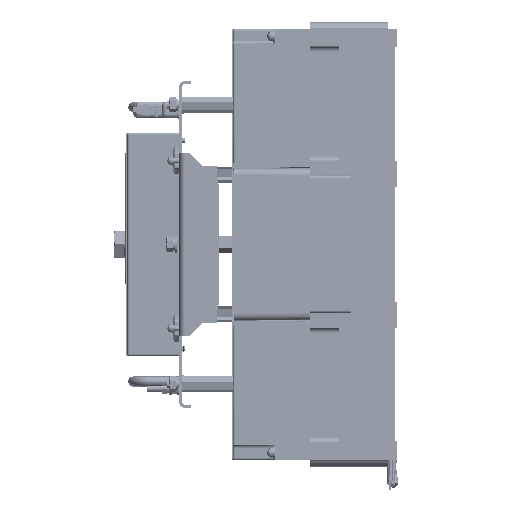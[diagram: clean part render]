
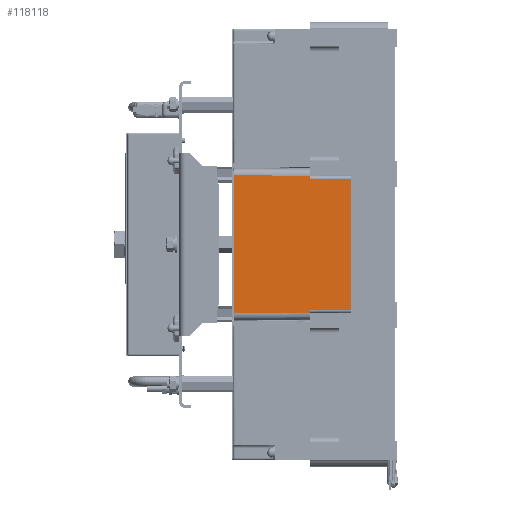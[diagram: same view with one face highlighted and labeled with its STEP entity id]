
A CAD part, left-side view. The second image highlights one B-rep face of the part: STEP entity #118118.
In plain terms, the highlighted planar face has unit normal (-1, -0.006, 0).
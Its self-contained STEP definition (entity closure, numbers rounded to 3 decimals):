
#57823 = CARTESIAN_POINT ( 'NONE',  ( -287.204, -14.459, -9.732 ) ) ;
#57861 = DIRECTION ( 'NONE',  ( 0., 0., -1. ) ) ;
#57862 = VECTOR ( 'NONE', #57861, 1000. ) ;
#57865 = CARTESIAN_POINT ( 'NONE',  ( -287.204, -14.459, 133. ) ) ;
#57866 = LINE ( 'NONE', #57865, #57862 ) ;
#57925 = CARTESIAN_POINT ( 'NONE',  ( -287.633, 60.041, 133. ) ) ;
#57926 = AXIS2_PLACEMENT_3D ( 'NONE', #57925, #58017, #58016 ) ;
#57932 = PLANE ( 'NONE',  #57926 ) ;
#57933 = FACE_OUTER_BOUND ( 'NONE', #118364, .T. ) ;
#58016 = DIRECTION ( 'NONE',  ( -0.006, 1., 0. ) ) ;
#58017 = DIRECTION ( 'NONE',  ( -1., -0.006, 0. ) ) ;
#58039 = CARTESIAN_POINT ( 'NONE',  ( -287.633, 60.041, 126. ) ) ;
#58061 = DIRECTION ( 'NONE',  ( 0., 0., 1. ) ) ;
#58062 = VECTOR ( 'NONE', #58061, 1000. ) ;
#58063 = CARTESIAN_POINT ( 'NONE',  ( -287.633, 60.041, 133. ) ) ;
#58064 = LINE ( 'NONE', #58063, #58062 ) ;
#58117 = DIRECTION ( 'NONE',  ( 0.006, -1., 0.004 ) ) ;
#58118 = VECTOR ( 'NONE', #58117, 1000. ) ;
#58120 = CARTESIAN_POINT ( 'NONE',  ( -287.63, 59.527, -9.998 ) ) ;
#58121 = LINE ( 'NONE', #58120, #58118 ) ;
#58151 = CARTESIAN_POINT ( 'NONE',  ( -286.967, -55.459, 122.7 ) ) ;
#58257 = CARTESIAN_POINT ( 'NONE',  ( -287.204, -14.459, 125.732 ) ) ;
#58269 = CARTESIAN_POINT ( 'NONE',  ( -287.633, 60.041, -10. ) ) ;
#58322 = DIRECTION ( 'NONE',  ( 0., 0., -1. ) ) ;
#58323 = VECTOR ( 'NONE', #58322, 1000. ) ;
#58324 = CARTESIAN_POINT ( 'NONE',  ( -287.204, -14.459, 133. ) ) ;
#58325 = LINE ( 'NONE', #58324, #58323 ) ;
#58401 = CARTESIAN_POINT ( 'NONE',  ( -286.967, -55.459, -6.7 ) ) ;
#58403 = DIRECTION ( 'NONE',  ( 0., 0., 1. ) ) ;
#58405 = VECTOR ( 'NONE', #58403, 1000. ) ;
#58407 = CARTESIAN_POINT ( 'NONE',  ( -286.967, -55.459, 133. ) ) ;
#58408 = LINE ( 'NONE', #58407, #58405 ) ;
#58419 = CARTESIAN_POINT ( 'NONE',  ( -287.204, -14.459, 122.7 ) ) ;
#58421 = DIRECTION ( 'NONE',  ( -0.006, 1., 0. ) ) ;
#58422 = VECTOR ( 'NONE', #58421, 1000. ) ;
#58424 = CARTESIAN_POINT ( 'NONE',  ( -287.204, -14.459, 122.7 ) ) ;
#58425 = LINE ( 'NONE', #58424, #58422 ) ;
#58529 = DIRECTION ( 'NONE',  ( 0.006, -1., 0. ) ) ;
#58530 = VECTOR ( 'NONE', #58529, 1000. ) ;
#58532 = CARTESIAN_POINT ( 'NONE',  ( -286.967, -55.459, -6.7 ) ) ;
#58541 = LINE ( 'NONE', #58532, #58530 ) ;
#58727 = CARTESIAN_POINT ( 'NONE',  ( -287.204, -14.459, -6.7 ) ) ;
#58763 = DIRECTION ( 'NONE',  ( -0.006, 1., 0.004 ) ) ;
#58765 = VECTOR ( 'NONE', #58763, 1000. ) ;
#58768 = CARTESIAN_POINT ( 'NONE',  ( -287.633, 60.066, 126. ) ) ;
#58771 = LINE ( 'NONE', #58768, #58765 ) ;
#118035 = VERTEX_POINT ( 'NONE', #57823 ) ;
#118080 = EDGE_CURVE ( 'NONE', #118260, #118415, #57866, .T. ) ;
#118118 = ADVANCED_FACE ( 'NONE', ( #57933 ), #57932, .T. ) ;
#118145 = EDGE_CURVE ( 'NONE', #118301, #118175, #58064, .T. ) ;
#118148 = ORIENTED_EDGE ( 'NONE', *, *, #118201, .T. ) ;
#118171 = ORIENTED_EDGE ( 'NONE', *, *, #118582, .T. ) ;
#118175 = VERTEX_POINT ( 'NONE', #58039 ) ;
#118201 = EDGE_CURVE ( 'NONE', #118301, #118035, #58121, .T. ) ;
#118237 = ORIENTED_EDGE ( 'NONE', *, *, #118423, .T. ) ;
#118242 = VERTEX_POINT ( 'NONE', #58151 ) ;
#118260 = VERTEX_POINT ( 'NONE', #58257 ) ;
#118289 = EDGE_CURVE ( 'NONE', #118608, #118035, #58325, .T. ) ;
#118301 = VERTEX_POINT ( 'NONE', #58269 ) ;
#118345 = ORIENTED_EDGE ( 'NONE', *, *, #118080, .F. ) ;
#118364 = EDGE_LOOP ( 'NONE', ( #118237, #118400, #118345, #118171, #118585, #118148, #118606, #118520 ) ) ;
#118400 = ORIENTED_EDGE ( 'NONE', *, *, #118411, .T. ) ;
#118411 = EDGE_CURVE ( 'NONE', #118242, #118415, #58425, .T. ) ;
#118415 = VERTEX_POINT ( 'NONE', #58419 ) ;
#118423 = EDGE_CURVE ( 'NONE', #118425, #118242, #58408, .T. ) ;
#118425 = VERTEX_POINT ( 'NONE', #58401 ) ;
#118499 = EDGE_CURVE ( 'NONE', #118608, #118425, #58541, .T. ) ;
#118520 = ORIENTED_EDGE ( 'NONE', *, *, #118499, .T. ) ;
#118582 = EDGE_CURVE ( 'NONE', #118260, #118175, #58771, .T. ) ;
#118585 = ORIENTED_EDGE ( 'NONE', *, *, #118145, .F. ) ;
#118606 = ORIENTED_EDGE ( 'NONE', *, *, #118289, .F. ) ;
#118608 = VERTEX_POINT ( 'NONE', #58727 ) ;
